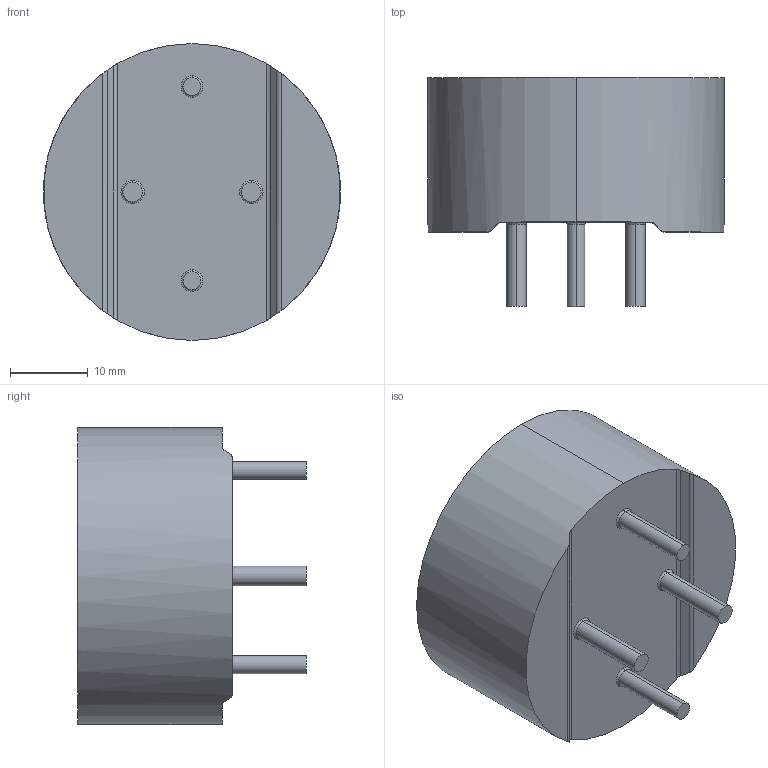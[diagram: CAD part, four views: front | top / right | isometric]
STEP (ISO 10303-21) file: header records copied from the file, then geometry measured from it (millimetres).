
FILE_DESCRIPTION (( 'STEP AP214' ), '1' );
FILE_NAME ('IHTH-1500TZ-5A 22uH.STEP', '2025-03-14T19:32:29', ( '' ), ( '' ), 'SwSTEP 2.0', 'SolidWorks 2024', '' );
FILE_SCHEMA (( 'AUTOMOTIVE_DESIGN' ));
Length unit declared in the file: inch
Products named in the file (1): IHTH-1500TZ-5A 22uH
Bounding box: 38.1 x 29.34 x 38.1 mm (x, y, z)
Volume: 21821.5 mm3; surface area: 4947.3 mm2
Topology: 1 solids, 1 shells, 208 faces, 538 edges, 356 vertices
Faces by surface type: plane 133, bspline 49, cylinder 18, torus 8
Entity records: 9363 total; most frequent: CARTESIAN_POINT 4564, ORIENTED_EDGE 1076, DIRECTION 796, EDGE_CURVE 538, LINE 380, VECTOR 380, VERTEX_POINT 356, EDGE_LOOP 232
